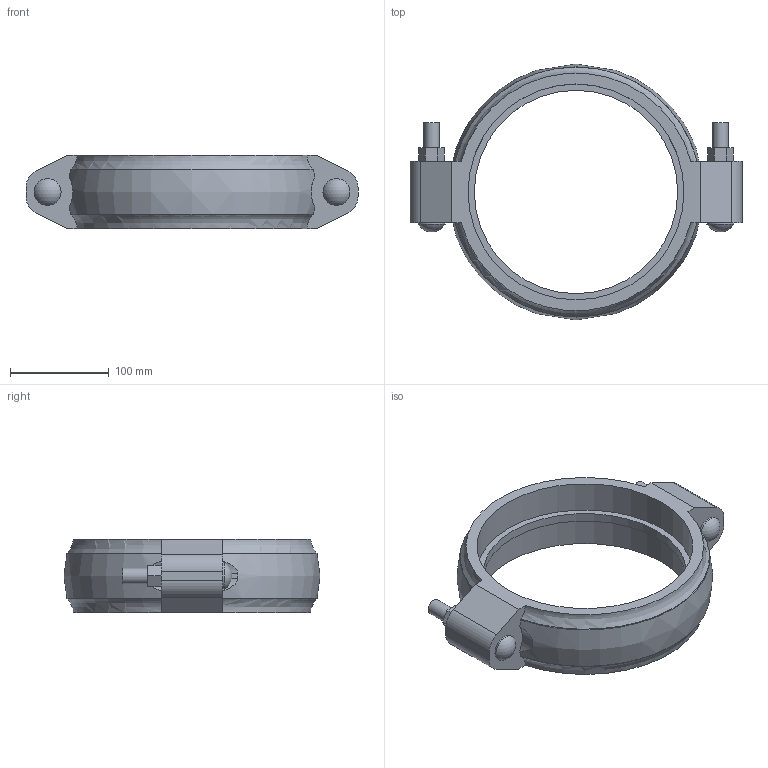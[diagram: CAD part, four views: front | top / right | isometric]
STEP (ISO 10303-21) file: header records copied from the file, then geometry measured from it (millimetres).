
FILE_DESCRIPTION(/* description */ ('VIC STRENGTHIN COUPLING STYLE E497 (RIGID)','CAx-IF Rec.Pracs.---Representation and Presentation of Product Manufacturing Information (PMI)---4.0---2014-10-13'),/* implementation_level */ '2;1');
FILE_NAME(/* name */ 'C:\Users\Vjadhav\AppData\Roaming\Autodesk\ApplicationPlugins\Back Up\Victaulic_SS-StrengThin 100_Coupling Rigid_Style E497 (ST1)\Victaulic_SS-StrengThin 100_Coupling Rigid_Style E497 (ST1)_8 (200).stp',/* time_stamp */ '2020-07-07T19:35:49+05:00',/* author */ ('jheald'),/* organization */ ('Victaulic'),/* preprocessor_version */ 'ST-DEVELOPER v17.2',/* originating_system */ 'Autodesk Inventor 2019',/* authorisation */ '');
FILE_SCHEMA (('AP242_MANAGED_MODEL_BASED_3D_ENGINEERING_MIM_LF { 1 0 10303 442 1 1 4 }'));
Length unit declared in the file: inch
Products named in the file (1): E497-08.0
Bounding box: 336.8 x 259.59 x 74.17 mm (x, y, z)
Volume: 1263324.8 mm3; surface area: 174575.1 mm2
Topology: 1 solids, 3 shells, 79 faces, 211 edges, 142 vertices
Faces by surface type: plane 42, cylinder 25, torus 8, sphere 2, bspline 2
Full cylindrical faces by diameter (mm): 15.875 x4, 27.381 x2, 206.375 x1, 219.075 x2
Entity records: 2952 total; most frequent: CARTESIAN_POINT 754, DIRECTION 423, ORIENTED_EDGE 422, EDGE_CURVE 211, AXIS2_PLACEMENT_3D 157, VERTEX_POINT 142, LINE 109, VECTOR 109
